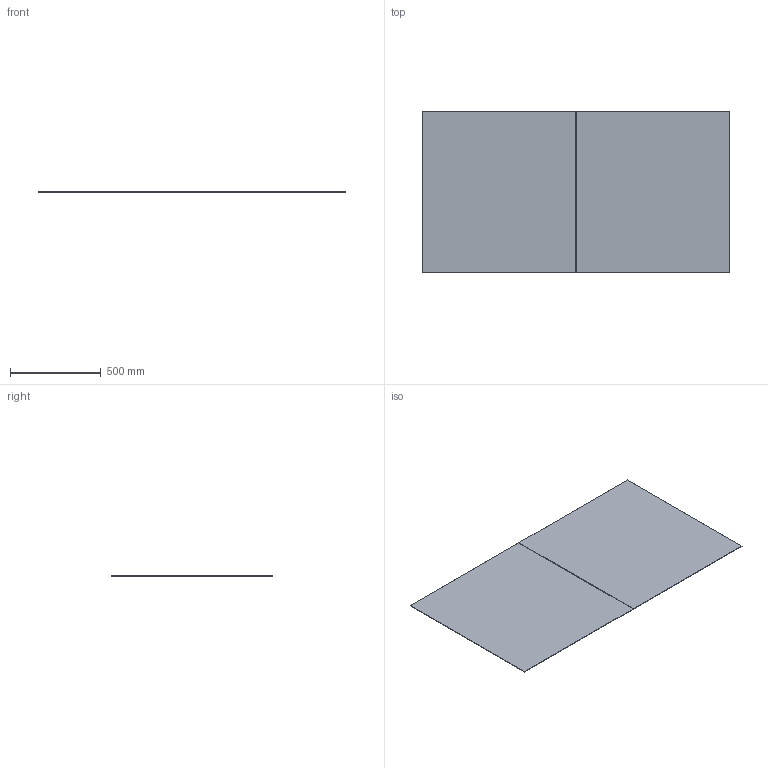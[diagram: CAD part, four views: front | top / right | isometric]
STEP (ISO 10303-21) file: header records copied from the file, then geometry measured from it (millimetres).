
FILE_DESCRIPTION(/* description */ (''),/* implementation_level */ '2;1');
FILE_NAME(/* name */ 'DOF585~1',/* time_stamp */ '2014-02-14T19:51:04+01:00',/* author */ (''),/* organization */ (''),/* preprocessor_version */ 'ST-DEVELOPER v14',/* originating_system */ '',/* authorisation */ '');
FILE_SCHEMA (('AUTOMOTIVE_DESIGN'));
Length unit declared in the file: millimetre
Products named in the file (1): Document
Bounding box: 1696 x 892 x 3 mm (x, y, z)
Volume: 4533144 mm3; surface area: 3042964 mm2
Topology: 2 solids, 2 shells, 12 faces, 24 edges, 16 vertices
Faces by surface type: plane 12
Entity records: 571 total; most frequent: CARTESIAN_POINT 174, B_SPLINE_CURVE_WITH_KNOTS 72, ORIENTED_EDGE 48, PCURVE 48, DEFINITIONAL_REPRESENTATION 48, SURFACE_CURVE 24, EDGE_CURVE 24, VERTEX_POINT 16
